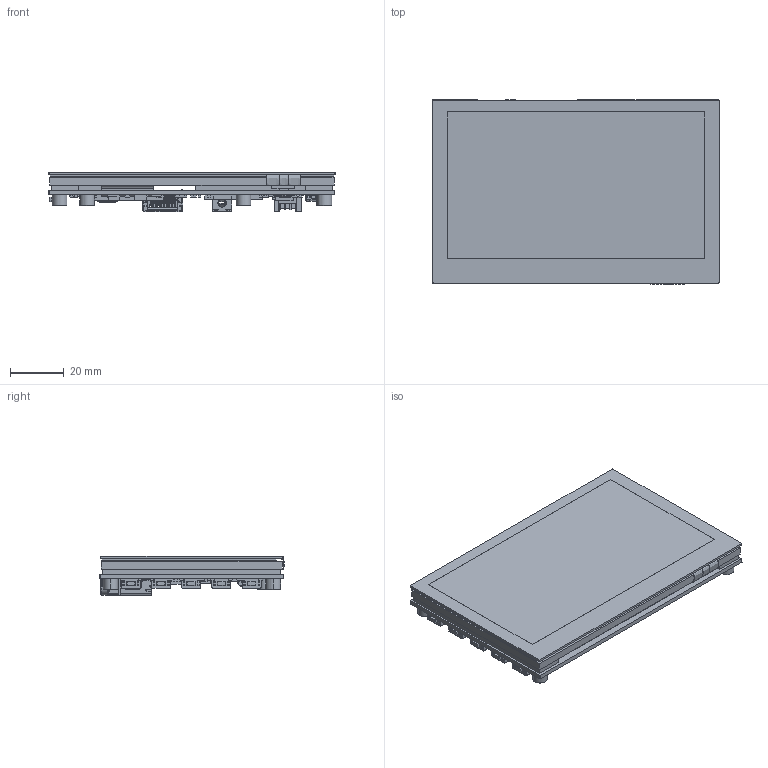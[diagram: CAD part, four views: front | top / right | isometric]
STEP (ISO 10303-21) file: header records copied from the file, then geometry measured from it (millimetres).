
FILE_DESCRIPTION((''),'2;1');
FILE_NAME('4_3INCH-HDMI-LCD_B_ASM','2025-11-19T19:30:12',('xiaojisheng'),(''),'CREO PARAMETRIC BY PTC INC, 2021063','CREO PARAMETRIC BY PTC INC, 2021063','');
FILE_SCHEMA(('CONFIG_CONTROL_DESIGN','SHAPE_APPEARANCE_LAYERS_GROUPS'));
Products named in the file (187): 43H-800480-IPS; 43H-800480-TP; EVA-2MM; OPEN_CASCADE_STEP_TRANSLATOR_7_; BOARD_ASM; EXTRUDED-4327; 7106379920_ASM; R94_ASM; R911_ASM; R8L_ASM; EXTRUDED-4610; 7107271392_ASM; EXTRUDED-4802; 7107271232_ASM; Q94_ASM; EXTRUDED-5044; 7107270832_ASM; Q15_ASM; EXTRUDED-5269; 7107264912_ASM; R37_ASM; R42_ASM; USER_LIBRARY-SOT-363; U16_ASM; U9_ASM; R117_ASM; R86_ASM; R85_ASM; R84_ASM; R79_ASM; Q1_ASM; L10_ASM; L9_ASM; C75_ASM; RT8097_R8_ASM; RT8097_R3_ASM; EXTRUDED-16048; 7106379600_ASM; RT8097_C8_ASM; EXTRUDED-16275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
Assembly tree (363 placements, depth 7):
  4_3INCH-HDMI-LCD_B_ASM
    43H-800480-IPS
    43H-800480-TP
    EVA-2MM
    4_3INCH-HDMI-LCD-PCBA_ASM
      4_3INCH_HDMI_LCD_B__ASM
        PCB_ASM
          BOARD_ASM
            OPEN_CASCADE_STEP_TRANSLATOR_7_
          R94_ASM
            7106379920_ASM
              EXTRUDED-4327
          R911_ASM
            7106379920_ASM
              EXTRUDED-4327
          R8L_ASM
            7106379920_ASM
              EXTRUDED-4327
          Q94_ASM
            7107271392_ASM  x3
              EXTRUDED-4610
            7107271232_ASM
              EXTRUDED-4802
          Q15_ASM
            7107271392_ASM  x3
              EXTRUDED-4610
            7107270832_ASM
              EXTRUDED-5044
          R37_ASM
            7107264912_ASM
              EXTRUDED-5269
          R42_ASM
            7107264912_ASM
              EXTRUDED-5269
          U16_ASM
            USER_LIBRARY-SOT-363
          U9_ASM
            7107271392_ASM  x3
              EXTRUDED-4610
            7107270832_ASM
              EXTRUDED-5044
          R117_ASM
            7107264912_ASM
              EXTRUDED-5269
          R86_ASM
            7107264912_ASM
              EXTRUDED-5269
          R85_ASM
            7107264912_ASM
              EXTRUDED-5269
          R84_ASM
            7107264912_ASM
              EXTRUDED-5269
          R79_ASM
            7107264912_ASM
              EXTRUDED-5269
          Q1_ASM
            7107271392_ASM  x3
              EXTRUDED-4610
            7107271232_ASM
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Bounding box: 106.1 x 68.48 x 14.65 mm (x, y, z)
Volume: 49730 mm3; surface area: 72548.7 mm2
Topology: 217 solids, 218 shells, 5718 faces, 15303 edges, 9912 vertices
Faces by surface type: plane 4233, cylinder 1141, extrusion 110, sphere 84, bspline 74, cone 50, torus 26
Entity records: 136813 total; most frequent: CARTESIAN_POINT 26499, DIRECTION 17272, ORIENTED_EDGE 17172, EDGE_CURVE 8586, VECTOR 7030, LINE 6920, PRESENTATION_STYLE_ASSIGNMENT 5924, STYLED_ITEM 5753
